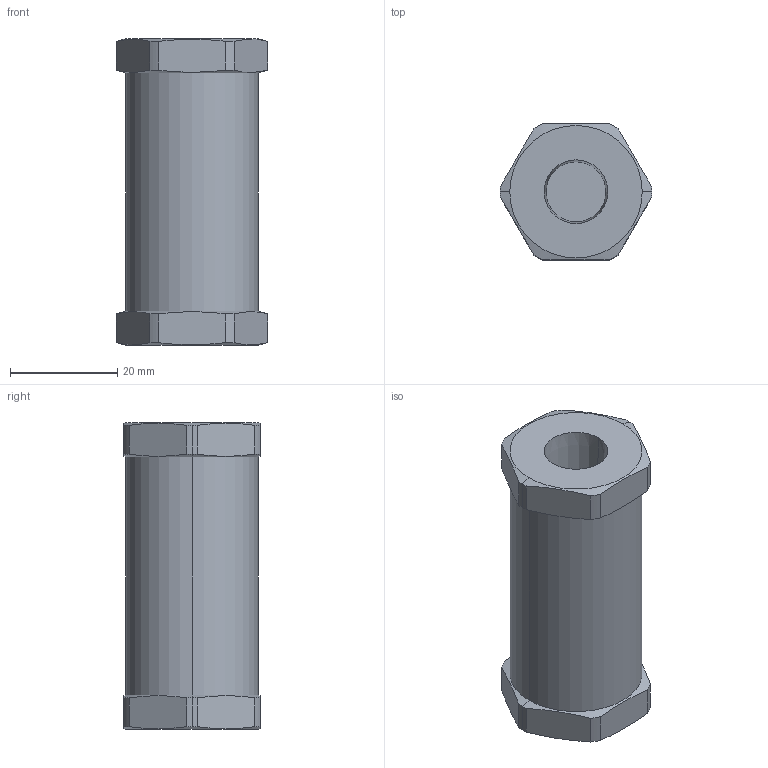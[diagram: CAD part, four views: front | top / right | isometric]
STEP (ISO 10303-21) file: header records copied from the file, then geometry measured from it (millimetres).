
FILE_DESCRIPTION (( 'STEP AP203' ), '1' );
FILE_NAME ('CV-250B-__-__.STEP', '2011-11-04T21:11:34', ( 'Tim' ), ( 'Microsoft' ), 'SwSTEP 2.0', 'SolidWorks 2011', '' );
FILE_SCHEMA (( 'CONFIG_CONTROL_DESIGN' ));
Length unit declared in the file: inch
Products named in the file (1): CV-250B-__-__
Bounding box: 28.26 x 25.4 x 57.15 mm (x, y, z)
Volume: 25974.2 mm3; surface area: 6513.8 mm2
Topology: 1 solids, 1 shells, 44 faces, 112 edges, 72 vertices
Faces by surface type: cylinder 16, plane 16, cone 12
Entity records: 1491 total; most frequent: CARTESIAN_POINT 349, DIRECTION 226, ORIENTED_EDGE 224, EDGE_CURVE 112, AXIS2_PLACEMENT_3D 93, VERTEX_POINT 72, CIRCLE 48, EDGE_LOOP 46
